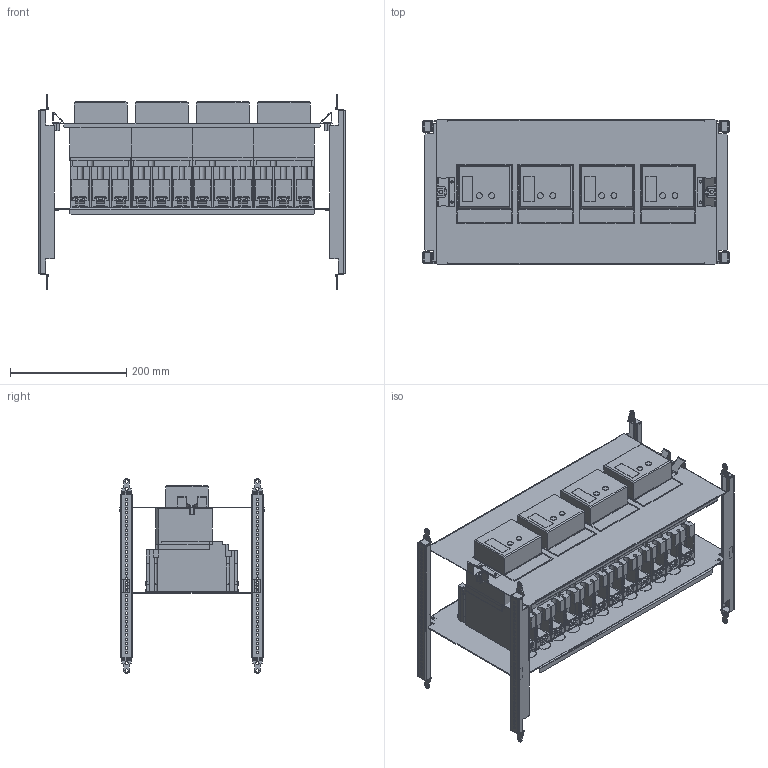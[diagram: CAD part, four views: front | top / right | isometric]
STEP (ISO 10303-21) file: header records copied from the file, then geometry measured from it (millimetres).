
FILE_DESCRIPTION(('CAx-IF Rec.Pracs.---Model Styling and Organization---1.2---2011-12-15','CAx-IF Rec.Pracs.---Geometric and Assembly Validation Properties---4.1---2014-06-16','CAx-IF Rec.Pracs.---PMI Polyline Presentation---2.0---2013-05-24'),'2;1');
FILE_NAME('R5PKIB7V62213 (F-MO).stp','2021-07-29T03:11:31+03:00',(''),(''),'STEP Interface 4.4 by CT CoreTechnologie','3D_Evolution4.4 by CT CoreTechnologie','');
FILE_SCHEMA(('AUTOMOTIVE_DESIGN { 1 0 10303 214 1 1 1 1 }'));
Length unit declared in the file: millimetre
Products named in the file (1): R5PKIB7V62213 (F-MO)
Bounding box: 526 x 248 x 335 mm (x, y, z)
Surface area: 1479503.9 mm2 (no closed solid volume)
Topology: 0 solids, 80 shells, 4174 faces, 12094 edges, 8134 vertices
Faces by surface type: plane 3206, cylinder 796, bspline 172
Entity records: 138752 total; most frequent: CARTESIAN_POINT 26515, ORIENTED_EDGE 24156, DIRECTION 21846, EDGE_CURVE 12078, VECTOR 10172, LINE 10172, VERTEX_POINT 8202, AXIS2_PLACEMENT_3D 5837
